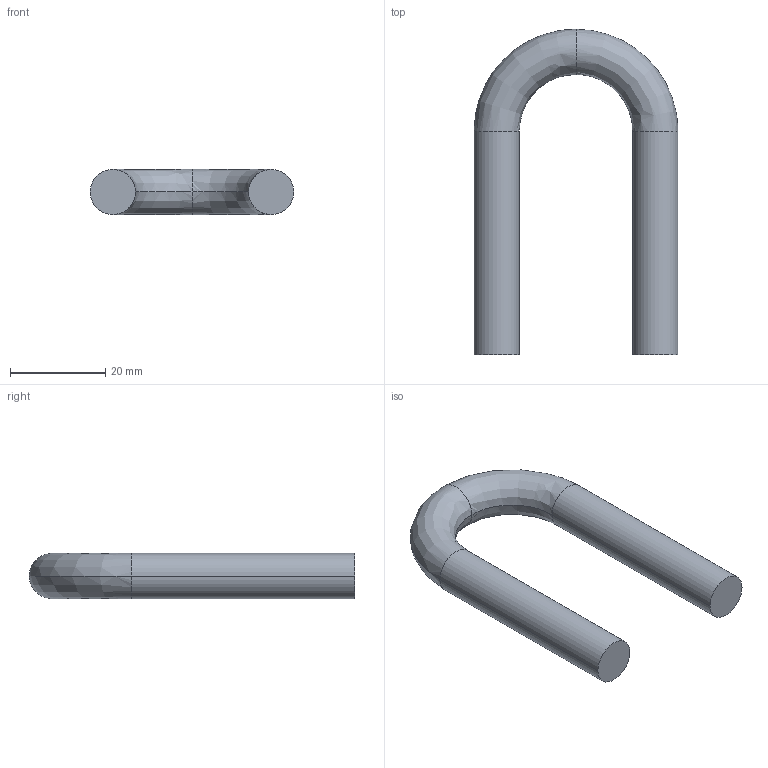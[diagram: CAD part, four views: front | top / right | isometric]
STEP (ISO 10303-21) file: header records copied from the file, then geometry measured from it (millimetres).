
FILE_DESCRIPTION(('TurboCAD Mac Pro'),'Build 980');
FILE_NAME('FUB-050.stp',' ',(''),(''),'ACIS Interop','IMSI','TurboCAD Mac Pro BY IMSI, INCORPORATED');
FILE_SCHEMA(('automotive_design'));
Length unit declared in the file: inch
Products named in the file (2): 1; 2
Bounding box: 42.85 x 68.41 x 9.53 mm (x, y, z)
Volume: 10420 mm3; surface area: 4520 mm2
Topology: 1 solids, 1 shells, 10 faces, 18 edges, 10 vertices
Faces by surface type: bspline 4, cylinder 4, plane 2
Entity records: 676 total; most frequent: CARTESIAN_POINT 330, DIRECTION 42, ORIENTED_EDGE 36, AXIS2_PLACEMENT_3D 18, EDGE_CURVE 18, STYLED_ITEM 15, PRESENTATION_STYLE_ASSIGNMENT 15, COLOUR_RGB 15
